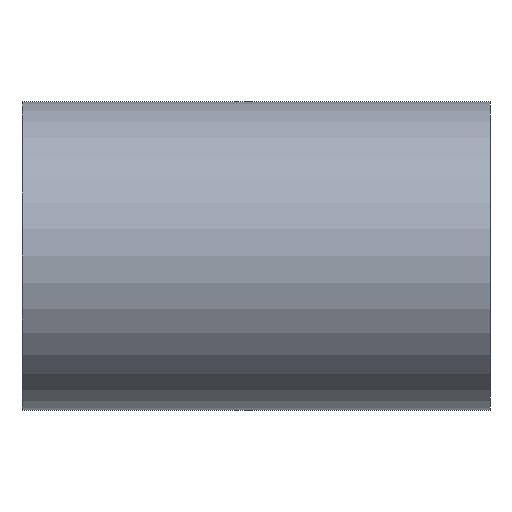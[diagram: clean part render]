
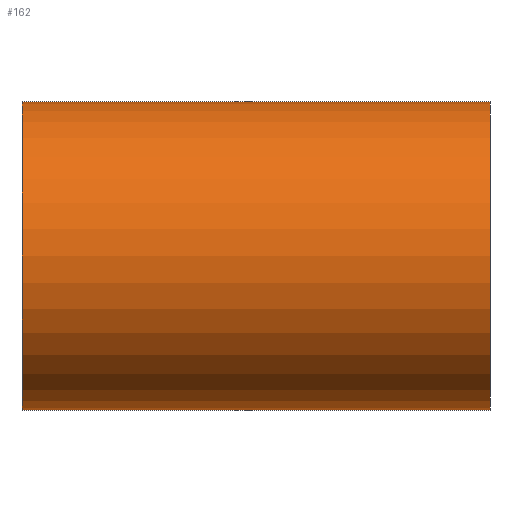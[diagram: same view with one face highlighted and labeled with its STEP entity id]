
A CAD part, front view. The second image highlights one B-rep face of the part: STEP entity #162.
In plain terms, the highlighted cylindrical face has radius 330 mm (diameter 660 mm), a partial arc.
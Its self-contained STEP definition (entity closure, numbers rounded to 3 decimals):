
#162=ADVANCED_FACE('',(#326),#327,.T.);
#326=FACE_OUTER_BOUND('',#509,.T.);
#327=CYLINDRICAL_SURFACE('',#510,330.0);
#509=EDGE_LOOP('',(#927,#928,#929,#930));
#510=AXIS2_PLACEMENT_3D('',#931,#932,#933);
#927=ORIENTED_EDGE('',*,*,#999,.T.);
#928=ORIENTED_EDGE('',*,*,#1173,.F.);
#929=ORIENTED_EDGE('',*,*,#1001,.T.);
#930=ORIENTED_EDGE('',*,*,#1174,.F.);
#931=CARTESIAN_POINT('',(0.0,0.0,0.0));
#932=DIRECTION('',(1.0,0.0,0.0));
#933=DIRECTION('',(0.0,0.0,-1.0));
#999=EDGE_CURVE('',#1178,#1179,#1180,.T.);
#1001=EDGE_CURVE('',#1183,#1181,#1184,.T.);
#1173=EDGE_CURVE('',#1183,#1179,#1439,.T.);
#1174=EDGE_CURVE('',#1178,#1181,#1440,.T.);
#1178=VERTEX_POINT('',#1444);
#1179=VERTEX_POINT('',#1445);
#1180=LINE('',#1446,#1447);
#1181=VERTEX_POINT('',#1448);
#1183=VERTEX_POINT('',#1450);
#1184=LINE('',#1451,#1452);
#1439=CIRCLE('',#1759,330.0);
#1440=CIRCLE('',#1760,330.0);
#1444=CARTESIAN_POINT('',(-500.0,0.0,-330.0));
#1445=CARTESIAN_POINT('',(500.0,0.0,-330.0));
#1446=CARTESIAN_POINT('',(0.0,0.,-330.0));
#1447=VECTOR('',#1763,1.0);
#1448=CARTESIAN_POINT('',(-500.0,0.,330.0));
#1450=CARTESIAN_POINT('',(500.0,0.,330.0));
#1451=CARTESIAN_POINT('',(0.0,0.,330.0));
#1452=VECTOR('',#1767,1.0);
#1759=AXIS2_PLACEMENT_3D('',#2042,#2043,#2044);
#1760=AXIS2_PLACEMENT_3D('',#2045,#2046,#2047);
#1763=DIRECTION('',(1.0,0.0,0.0));
#1767=DIRECTION('',(-1.0,-0.0,-0.0));
#2042=CARTESIAN_POINT('',(500.0,0.0,0.0));
#2043=DIRECTION('',(1.0,0.0,0.0));
#2044=DIRECTION('',(0.0,0.0,-1.0));
#2045=CARTESIAN_POINT('',(-500.0,0.0,0.0));
#2046=DIRECTION('',(-1.0,0.0,0.0));
#2047=DIRECTION('',(0.0,0.0,-1.0));
